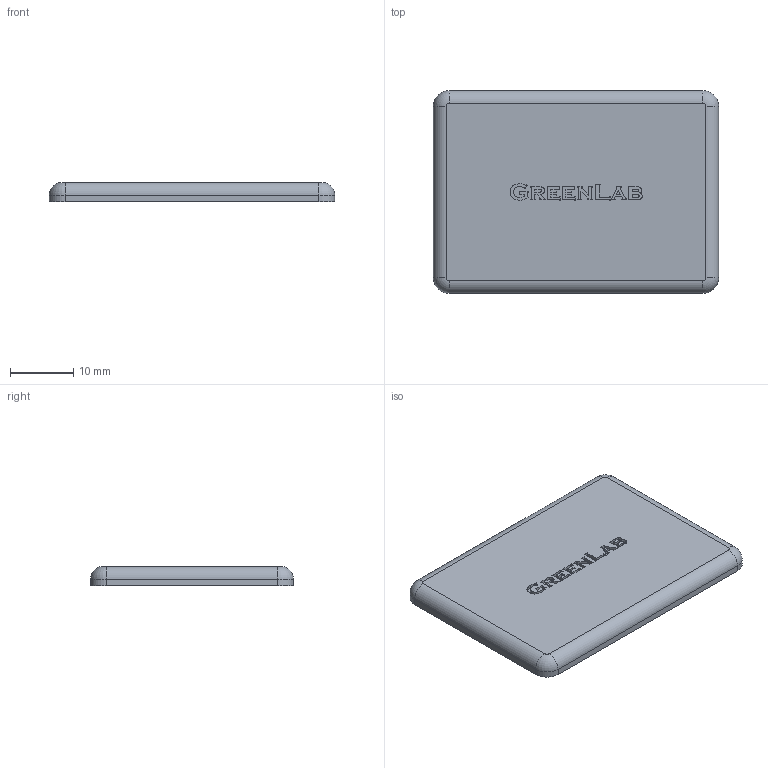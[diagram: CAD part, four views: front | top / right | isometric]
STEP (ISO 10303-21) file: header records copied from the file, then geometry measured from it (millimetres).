
FILE_DESCRIPTION (( 'STEP AP214' ), '1' );
FILE_NAME ('1.1058 Päätysuoja 45X32 musta.STEP', '2023-12-05T07:14:19', ( '' ), ( '' ), 'SwSTEP 2.0', 'SolidWorks 2019', '' );
FILE_SCHEMA (( 'AUTOMOTIVE_DESIGN' ));
Length unit declared in the file: millimetre
Products named in the file (1): 1.1058 Päätysuoja 45X32 musta
Bounding box: 45 x 32 x 3 mm (x, y, z)
Volume: 4167.1 mm3; surface area: 3241.9 mm2
Topology: 1 solids, 1 shells, 240 faces, 670 edges, 444 vertices
Faces by surface type: plane 143, bspline 85, cylinder 8, torus 4
Entity records: 10306 total; most frequent: CARTESIAN_POINT 4672, ORIENTED_EDGE 1340, DIRECTION 832, EDGE_CURVE 670, VECTOR 480, LINE 480, VERTEX_POINT 444, EDGE_LOOP 252
